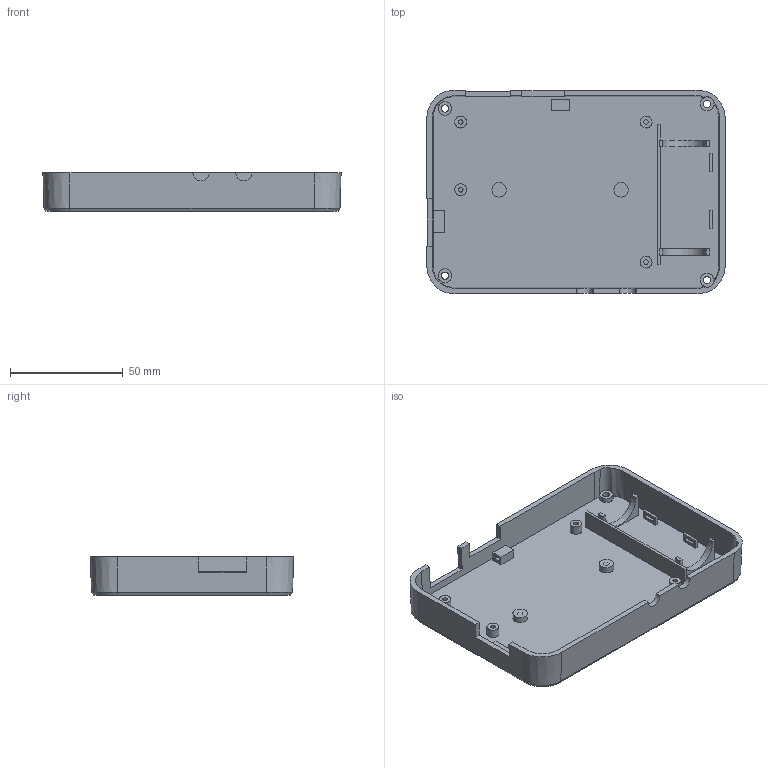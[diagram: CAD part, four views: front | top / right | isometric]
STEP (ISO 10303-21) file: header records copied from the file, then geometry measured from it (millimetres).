
FILE_DESCRIPTION(('FreeCAD Model'),'2;1');
FILE_NAME('Open CASCADE Shape Model','2026-10-24T11:59:21',('FreeCAD'),( 'FreeCAD'),'Open CASCADE STEP processor 7.8','FreeCAD','Unknown');
FILE_SCHEMA(('AUTOMOTIVE_DESIGN { 1 0 10303 214 1 1 1 1 }'));
Length unit declared in the file: millimetre
Products named in the file (1): Open CASCADE STEP translator 7.8 1
Bounding box: 132 x 90 x 17 mm (x, y, z)
Volume: 41765.3 mm3; surface area: 38060.8 mm2
Topology: 1 solids, 1 shells, 176 faces, 442 edges, 296 vertices
Faces by surface type: plane 120, cylinder 42, cone 14
Full cylindrical faces by diameter (mm): 2 x4, 2.5 x2, 3.2 x4, 5.3 x4, 5.8 x4, 6 x2, 6.4 x2
Entity records: 5328 total; most frequent: CARTESIAN_POINT 995, ORIENTED_EDGE 884, DIRECTION 880, EDGE_CURVE 442, AXIS2_PLACEMENT_3D 297, VERTEX_POINT 296, LINE 286, VECTOR 286
